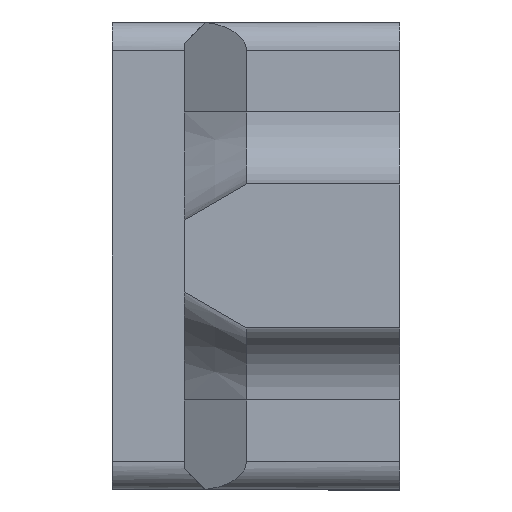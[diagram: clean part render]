
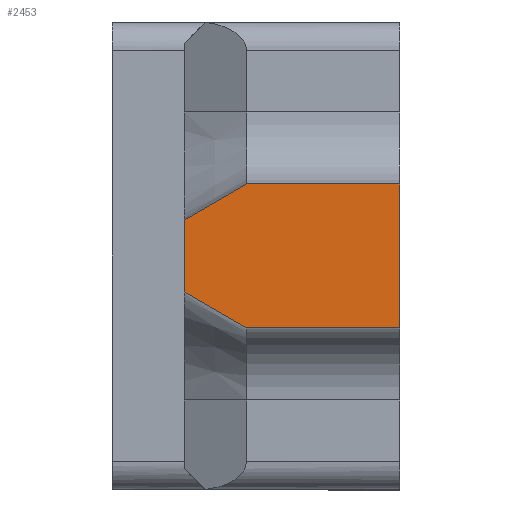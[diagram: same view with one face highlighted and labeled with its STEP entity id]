
A CAD part, left-side view. The second image highlights one B-rep face of the part: STEP entity #2453.
In plain terms, the highlighted planar face has unit normal (-1, 0, 0).
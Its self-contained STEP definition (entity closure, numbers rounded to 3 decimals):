
#94 = LINE ( 'NONE', #665, #5455 ) ;
#95 = LINE ( 'NONE', #2752, #2469 ) ;
#218 = VECTOR ( 'NONE', #1100, 1000. ) ;
#365 = FACE_OUTER_BOUND ( 'NONE', #2425, .T. ) ;
#461 = ORIENTED_EDGE ( 'NONE', *, *, #2759, .T. ) ;
#628 = ORIENTED_EDGE ( 'NONE', *, *, #5594, .F. ) ;
#665 = CARTESIAN_POINT ( 'NONE',  ( 50.716, -25.853, 51.418 ) ) ;
#1006 = LINE ( 'NONE', #2519, #2467 ) ;
#1100 = DIRECTION ( 'NONE',  ( 0., -1., 0. ) ) ;
#1120 = VERTEX_POINT ( 'NONE', #5602 ) ;
#1433 = EDGE_CURVE ( 'NONE', #1770, #3862, #1006, .T. ) ;
#1465 = DIRECTION ( 'NONE',  ( 0., 0., -1. ) ) ;
#1558 = AXIS2_PLACEMENT_3D ( 'NONE', #2459, #5080, #5562 ) ;
#1604 = DIRECTION ( 'NONE',  ( 0., 0.866, 0.5 ) ) ;
#1770 = VERTEX_POINT ( 'NONE', #2505 ) ;
#1918 = VERTEX_POINT ( 'NONE', #6664 ) ;
#2169 = VERTEX_POINT ( 'NONE', #2422 ) ;
#2246 = ORIENTED_EDGE ( 'NONE', *, *, #1433, .F. ) ;
#2422 = CARTESIAN_POINT ( 'NONE',  ( 50.716, -40.853, 41.418 ) ) ;
#2425 = EDGE_LOOP ( 'NONE', ( #461, #2246, #5767, #628, #6146, #5420 ) ) ;
#2453 = ADVANCED_FACE ( 'NONE', ( #365 ), #2870, .F. ) ;
#2459 = CARTESIAN_POINT ( 'NONE',  ( 50.716, -40.853, 51.418 ) ) ;
#2467 = VECTOR ( 'NONE', #1604, 1000. ) ;
#2469 = VECTOR ( 'NONE', #5333, 1000. ) ;
#2505 = CARTESIAN_POINT ( 'NONE',  ( 50.716, -30.201, 41.418 ) ) ;
#2519 = CARTESIAN_POINT ( 'NONE',  ( 50.716, -25.853, 43.928 ) ) ;
#2689 = DIRECTION ( 'NONE',  ( 0., 0., -1. ) ) ;
#2752 = CARTESIAN_POINT ( 'NONE',  ( 50.716, -25.853, 48.908 ) ) ;
#2759 = EDGE_CURVE ( 'NONE', #1120, #3862, #94, .T. ) ;
#2870 = PLANE ( 'NONE',  #1558 ) ;
#3201 = EDGE_CURVE ( 'NONE', #1918, #5984, #3268, .T. ) ;
#3268 = LINE ( 'NONE', #5790, #218 ) ;
#3771 = EDGE_CURVE ( 'NONE', #1120, #1918, #95, .T. ) ;
#3862 = VERTEX_POINT ( 'NONE', #4097 ) ;
#4097 = CARTESIAN_POINT ( 'NONE',  ( 50.716, -25.853, 43.928 ) ) ;
#4718 = CARTESIAN_POINT ( 'NONE',  ( 50.716, -40.853, 41.418 ) ) ;
#5080 = DIRECTION ( 'NONE',  ( 1., 0., 0. ) ) ;
#5130 = EDGE_CURVE ( 'NONE', #1770, #2169, #5761, .T. ) ;
#5333 = DIRECTION ( 'NONE',  ( 0., -0.866, 0.5 ) ) ;
#5420 = ORIENTED_EDGE ( 'NONE', *, *, #3771, .F. ) ;
#5455 = VECTOR ( 'NONE', #2689, 1000. ) ;
#5562 = DIRECTION ( 'NONE',  ( 0., 0., -1. ) ) ;
#5594 = EDGE_CURVE ( 'NONE', #5984, #2169, #6157, .T. ) ;
#5602 = CARTESIAN_POINT ( 'NONE',  ( 50.716, -25.853, 48.908 ) ) ;
#5615 = CARTESIAN_POINT ( 'NONE',  ( 50.716, -40.853, 51.418 ) ) ;
#5761 = LINE ( 'NONE', #4718, #5963 ) ;
#5767 = ORIENTED_EDGE ( 'NONE', *, *, #5130, .T. ) ;
#5790 = CARTESIAN_POINT ( 'NONE',  ( 50.716, -40.853, 51.418 ) ) ;
#5914 = DIRECTION ( 'NONE',  ( 0., -1., 0. ) ) ;
#5963 = VECTOR ( 'NONE', #5914, 1000. ) ;
#5984 = VERTEX_POINT ( 'NONE', #6317 ) ;
#6086 = VECTOR ( 'NONE', #1465, 1000. ) ;
#6146 = ORIENTED_EDGE ( 'NONE', *, *, #3201, .F. ) ;
#6157 = LINE ( 'NONE', #5615, #6086 ) ;
#6317 = CARTESIAN_POINT ( 'NONE',  ( 50.716, -40.853, 51.418 ) ) ;
#6664 = CARTESIAN_POINT ( 'NONE',  ( 50.716, -30.201, 51.418 ) ) ;
